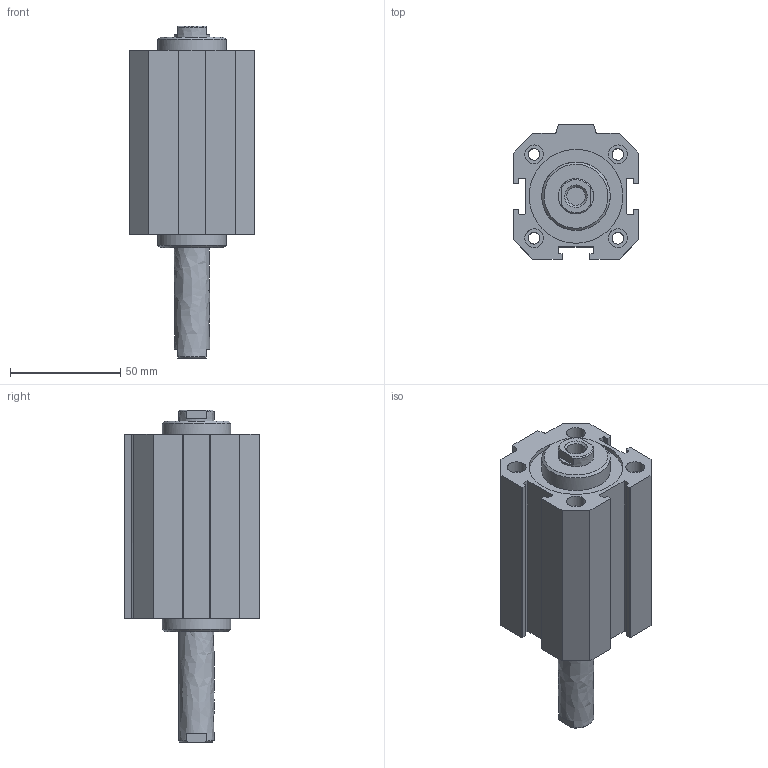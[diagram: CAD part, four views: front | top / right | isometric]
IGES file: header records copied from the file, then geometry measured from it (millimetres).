
Global section: file name: 1514_40_0045; native system: Autodesk Inventor 2014; preprocessor: unknown; author: A. Manieri; date: 20160824.120222; units: millimetre
Bounding box: 57 x 61 x 150.5 mm (x, y, z)
Volume: 202107.2 mm3; surface area: 59501.5 mm2
Topology: 2 solids, 2 shells, 130 faces, 339 edges, 233 vertices
Faces by surface type: bspline 130
